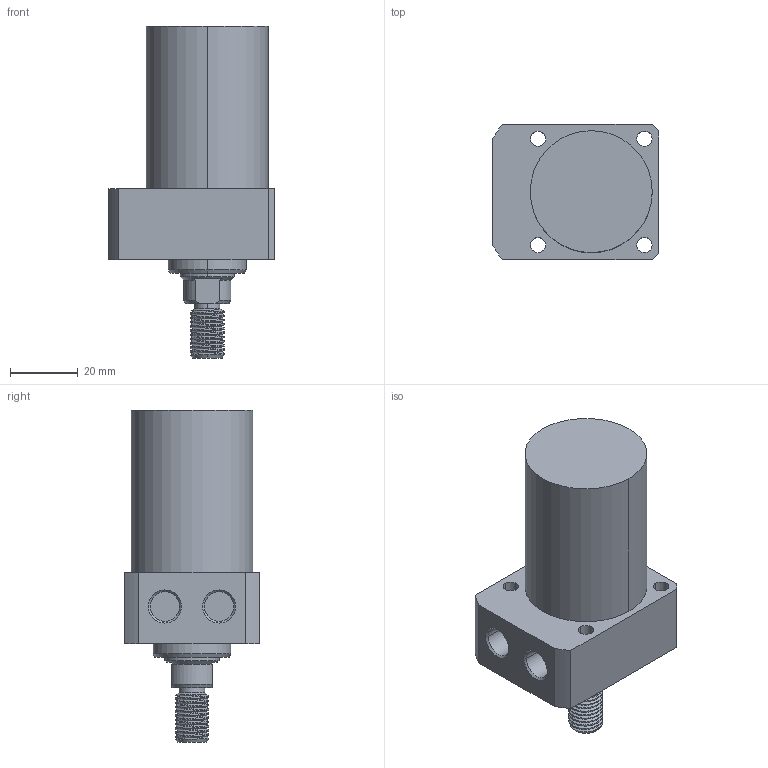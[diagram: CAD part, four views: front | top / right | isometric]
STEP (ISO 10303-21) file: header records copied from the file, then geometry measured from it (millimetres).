
FILE_DESCRIPTION((' '),'2;1');
FILE_NAME( 'TLLR-036CT-040.STEP.stp', '2025-10-24T16:35:47', (' '), ('--- Datakit www.datakit.com---'), ' Datakit CrossCadWare V2024.1 Dec 21 2023', 'Mastercam 2025', ' ');
FILE_SCHEMA(('AUTOMOTIVE_DESIGN { 1 0 10303 214 1 1 1 1 }'));
Length unit declared in the file: millimetre
Products named in the file (1): TLLR-036CT-040
Bounding box: 49 x 40 x 98 mm (x, y, z)
Volume: 90878.7 mm3; surface area: 16089.9 mm2
Topology: 1 solids, 1 shells, 87 faces, 291 edges, 214 vertices
Faces by surface type: cylinder 50, plane 21, cone 14, bspline 2
Entity records: 7393 total; most frequent: CARTESIAN_POINT 4766, ORIENTED_EDGE 582, DIRECTION 466, EDGE_CURVE 291, VERTEX_POINT 214, AXIS2_PLACEMENT_3D 188, EDGE_LOOP 103, CIRCLE 102
